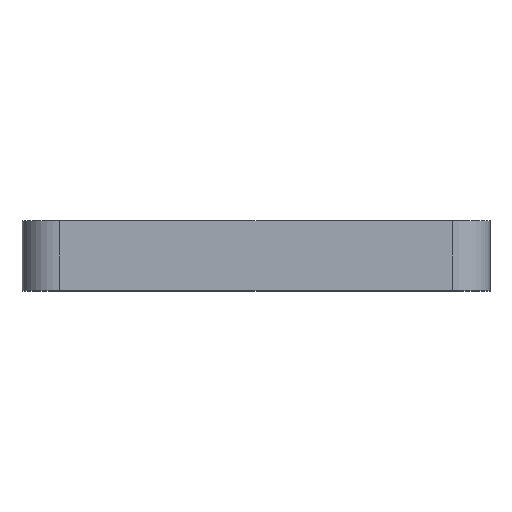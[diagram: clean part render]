
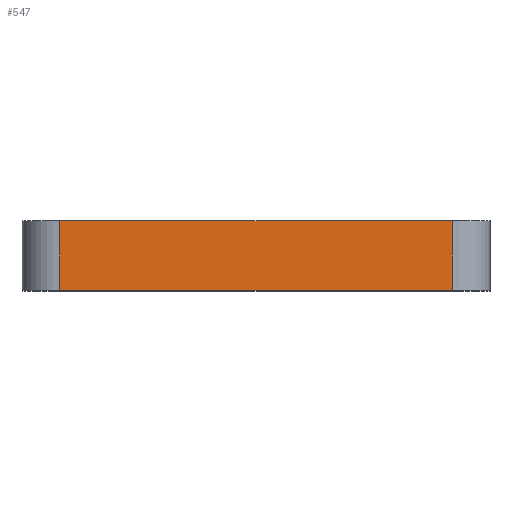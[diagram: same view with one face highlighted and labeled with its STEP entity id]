
A CAD part, top view. The second image highlights one B-rep face of the part: STEP entity #547.
In plain terms, the highlighted planar face has unit normal (0, 0, 1).
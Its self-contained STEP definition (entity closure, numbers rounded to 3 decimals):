
#44 = PLANE('',#45);
#45 = AXIS2_PLACEMENT_3D('',#46,#47,#48);
#46 = CARTESIAN_POINT('',(0.,26.,2.75));
#47 = DIRECTION('',(0.,1.,0.));
#48 = DIRECTION('',(1.,0.,-0.));
#72 = CYLINDRICAL_SURFACE('',#73,3.);
#73 = AXIS2_PLACEMENT_3D('',#74,#75,#76);
#74 = CARTESIAN_POINT('',(-15.5,26.,22.5));
#75 = DIRECTION('',(0.,-1.,0.));
#76 = DIRECTION('',(-1.,0.,0.));
#100 = PLANE('',#101);
#101 = AXIS2_PLACEMENT_3D('',#102,#103,#104);
#102 = CARTESIAN_POINT('',(0.,31.5,2.75));
#103 = DIRECTION('',(0.,1.,0.));
#104 = DIRECTION('',(1.,0.,-0.));
#428 = CYLINDRICAL_SURFACE('',#429,3.);
#429 = AXIS2_PLACEMENT_3D('',#430,#431,#432);
#430 = CARTESIAN_POINT('',(15.5,26.,22.5));
#431 = DIRECTION('',(0.,-1.,0.));
#432 = DIRECTION('',(-1.,0.,0.));
#466 = VERTEX_POINT('',#467);
#467 = CARTESIAN_POINT('',(15.5,26.,25.5));
#495 = VERTEX_POINT('',#496);
#496 = CARTESIAN_POINT('',(15.5,31.5,25.5));
#522 = EDGE_CURVE('',#466,#495,#523,.T.);
#523 = SURFACE_CURVE('',#524,(#528,#535),.PCURVE_S1.);
#524 = LINE('',#525,#526);
#525 = CARTESIAN_POINT('',(15.5,26.,25.5));
#526 = VECTOR('',#527,1.);
#527 = DIRECTION('',(0.,1.,0.));
#528 = PCURVE('',#428,#529);
#529 = DEFINITIONAL_REPRESENTATION('',(#530),#534);
#530 = LINE('',#531,#532);
#531 = CARTESIAN_POINT('',(4.712,0.));
#532 = VECTOR('',#533,1.);
#533 = DIRECTION('',(0.,-1.));
#534 = ( GEOMETRIC_REPRESENTATION_CONTEXT(2) 
PARAMETRIC_REPRESENTATION_CONTEXT() REPRESENTATION_CONTEXT('2D SPACE',''
  ) );
#535 = PCURVE('',#536,#541);
#536 = PLANE('',#537);
#537 = AXIS2_PLACEMENT_3D('',#538,#539,#540);
#538 = CARTESIAN_POINT('',(-15.5,26.,25.5));
#539 = DIRECTION('',(0.,0.,-1.));
#540 = DIRECTION('',(1.,0.,0.));
#541 = DEFINITIONAL_REPRESENTATION('',(#542),#546);
#542 = LINE('',#543,#544);
#543 = CARTESIAN_POINT('',(31.,0.));
#544 = VECTOR('',#545,1.);
#545 = DIRECTION('',(0.,-1.));
#546 = ( GEOMETRIC_REPRESENTATION_CONTEXT(2) 
PARAMETRIC_REPRESENTATION_CONTEXT() REPRESENTATION_CONTEXT('2D SPACE',''
  ) );
#547 = ADVANCED_FACE('',(#548),#536,.F.);
#548 = FACE_BOUND('',#549,.F.);
#549 = EDGE_LOOP('',(#550,#573,#596,#617));
#550 = ORIENTED_EDGE('',*,*,#551,.F.);
#551 = EDGE_CURVE('',#552,#466,#554,.T.);
#552 = VERTEX_POINT('',#553);
#553 = CARTESIAN_POINT('',(-15.5,26.,25.5));
#554 = SURFACE_CURVE('',#555,(#559,#566),.PCURVE_S1.);
#555 = LINE('',#556,#557);
#556 = CARTESIAN_POINT('',(0.,26.,25.5));
#557 = VECTOR('',#558,1.);
#558 = DIRECTION('',(1.,0.,-0.));
#559 = PCURVE('',#536,#560);
#560 = DEFINITIONAL_REPRESENTATION('',(#561),#565);
#561 = LINE('',#562,#563);
#562 = CARTESIAN_POINT('',(15.5,0.));
#563 = VECTOR('',#564,1.);
#564 = DIRECTION('',(1.,0.));
#565 = ( GEOMETRIC_REPRESENTATION_CONTEXT(2) 
PARAMETRIC_REPRESENTATION_CONTEXT() REPRESENTATION_CONTEXT('2D SPACE',''
  ) );
#566 = PCURVE('',#44,#567);
#567 = DEFINITIONAL_REPRESENTATION('',(#568),#572);
#568 = LINE('',#569,#570);
#569 = CARTESIAN_POINT('',(0.,-22.75));
#570 = VECTOR('',#571,1.);
#571 = DIRECTION('',(1.,0.));
#572 = ( GEOMETRIC_REPRESENTATION_CONTEXT(2) 
PARAMETRIC_REPRESENTATION_CONTEXT() REPRESENTATION_CONTEXT('2D SPACE',''
  ) );
#573 = ORIENTED_EDGE('',*,*,#574,.T.);
#574 = EDGE_CURVE('',#552,#575,#577,.T.);
#575 = VERTEX_POINT('',#576);
#576 = CARTESIAN_POINT('',(-15.5,31.5,25.5));
#577 = SURFACE_CURVE('',#578,(#582,#589),.PCURVE_S1.);
#578 = LINE('',#579,#580);
#579 = CARTESIAN_POINT('',(-15.5,26.,25.5));
#580 = VECTOR('',#581,1.);
#581 = DIRECTION('',(0.,1.,0.));
#582 = PCURVE('',#536,#583);
#583 = DEFINITIONAL_REPRESENTATION('',(#584),#588);
#584 = LINE('',#585,#586);
#585 = CARTESIAN_POINT('',(0.,0.));
#586 = VECTOR('',#587,1.);
#587 = DIRECTION('',(0.,-1.));
#588 = ( GEOMETRIC_REPRESENTATION_CONTEXT(2) 
PARAMETRIC_REPRESENTATION_CONTEXT() REPRESENTATION_CONTEXT('2D SPACE',''
  ) );
#589 = PCURVE('',#72,#590);
#590 = DEFINITIONAL_REPRESENTATION('',(#591),#595);
#591 = LINE('',#592,#593);
#592 = CARTESIAN_POINT('',(4.712,0.));
#593 = VECTOR('',#594,1.);
#594 = DIRECTION('',(0.,-1.));
#595 = ( GEOMETRIC_REPRESENTATION_CONTEXT(2) 
PARAMETRIC_REPRESENTATION_CONTEXT() REPRESENTATION_CONTEXT('2D SPACE',''
  ) );
#596 = ORIENTED_EDGE('',*,*,#597,.T.);
#597 = EDGE_CURVE('',#575,#495,#598,.T.);
#598 = SURFACE_CURVE('',#599,(#603,#610),.PCURVE_S1.);
#599 = LINE('',#600,#601);
#600 = CARTESIAN_POINT('',(0.,31.5,25.5));
#601 = VECTOR('',#602,1.);
#602 = DIRECTION('',(1.,0.,-0.));
#603 = PCURVE('',#536,#604);
#604 = DEFINITIONAL_REPRESENTATION('',(#605),#609);
#605 = LINE('',#606,#607);
#606 = CARTESIAN_POINT('',(15.5,-5.5));
#607 = VECTOR('',#608,1.);
#608 = DIRECTION('',(1.,0.));
#609 = ( GEOMETRIC_REPRESENTATION_CONTEXT(2) 
PARAMETRIC_REPRESENTATION_CONTEXT() REPRESENTATION_CONTEXT('2D SPACE',''
  ) );
#610 = PCURVE('',#100,#611);
#611 = DEFINITIONAL_REPRESENTATION('',(#612),#616);
#612 = LINE('',#613,#614);
#613 = CARTESIAN_POINT('',(0.,-22.75));
#614 = VECTOR('',#615,1.);
#615 = DIRECTION('',(1.,0.));
#616 = ( GEOMETRIC_REPRESENTATION_CONTEXT(2) 
PARAMETRIC_REPRESENTATION_CONTEXT() REPRESENTATION_CONTEXT('2D SPACE',''
  ) );
#617 = ORIENTED_EDGE('',*,*,#522,.F.);
